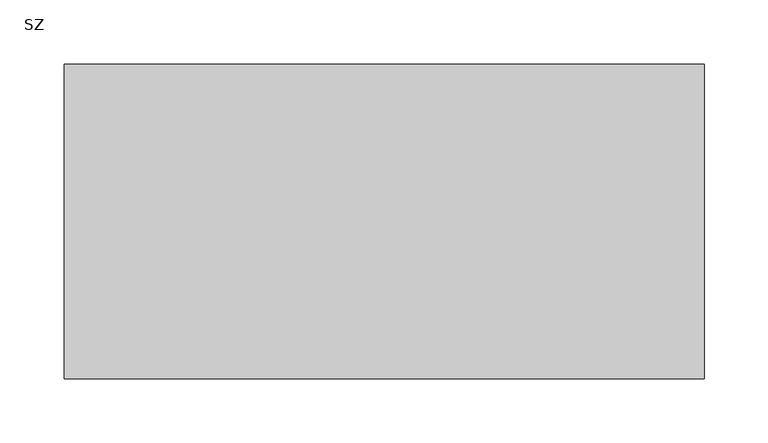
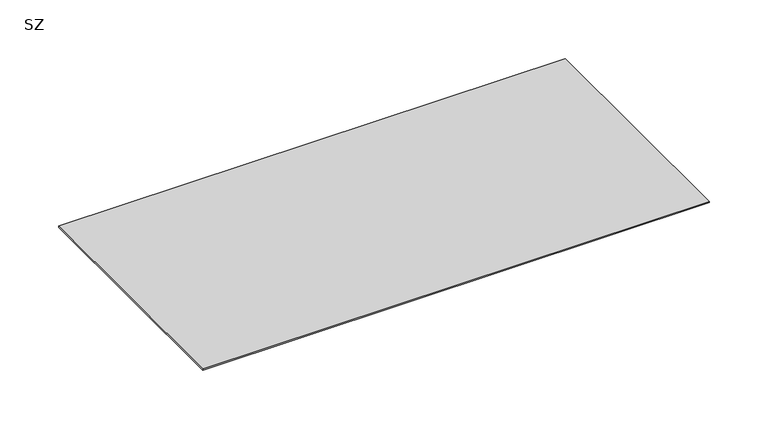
"""IFC4 building model written with IfcOpenShell, lengths in millimetres: cable carrier fitting geometry, IEK_Лестничный_Вставка донная : SZ."""

from ifc_helpers import new_model, si_unit, frame, origin, place, context, project, spatial, polyline, outline, extrude, source, transform, mapped, element, save


def sz_2e9c0341(model_context):
    return source(origin(), model_context, "Body", "SweptSolid", [
        extrude(outline(polyline([(500.0, 123.0), (500.0, -123.0), (0.0, -123.0), (0.0, 123.0), (500.0, 123.0)])), frame((0.0, 0.0, -23.2), z_axis=(0.0, 0.0, 1.0), x_axis=(1.0, 0.0, 0.0)), (0.0, 0.0, 1.0), 1.2),
    ])


if __name__ == "__main__":
    model = new_model("IFC4")
    model_context = context("Model", 3, world=origin())
    ifc_project = project(units=[si_unit("LENGTHUNIT", "METRE", prefix="MILLI")], contexts=[model_context])
    site = spatial("IfcSite", under=ifc_project)
    building = spatial("IfcBuilding", under=site)
    placement = place(None, origin())
    sz_shape = sz_2e9c0341(model_context)
    element("IfcCableCarrierFitting", 1, ObjectType="IEK_Лестничный_Вставка донная : SZ", at=placement, inside=building, context=model_context, shape_type="MappedRepresentation", body=[
        mapped(sz_shape, transform((0.0, 0.0, 0.0), x_axis=(1.0, 0.0, 0.0), y_axis=(0.0, 1.0, 0.0), z_axis=(0.0, 0.0, 1.0))),
    ])
    save(model, "model.ifc")
